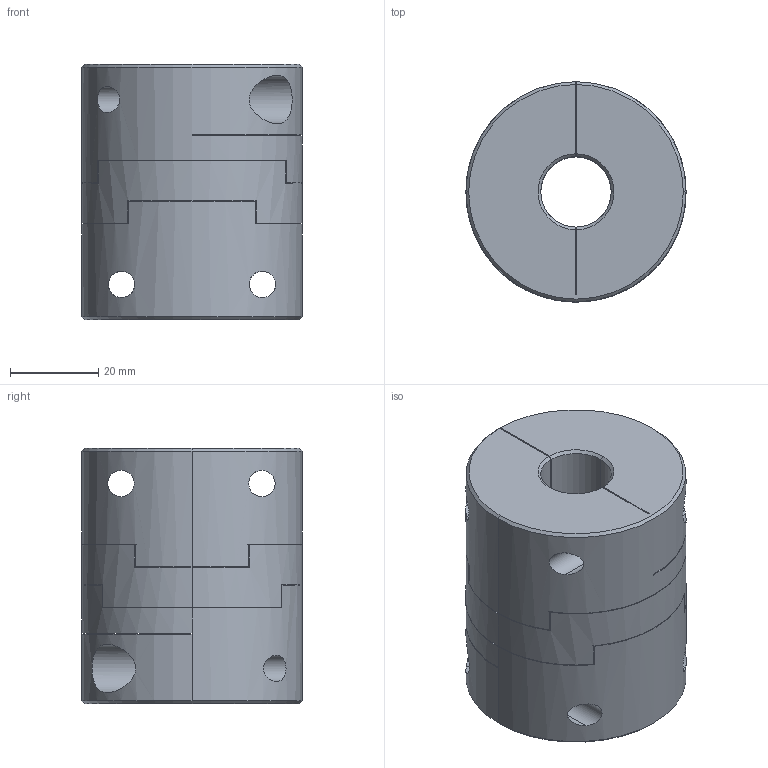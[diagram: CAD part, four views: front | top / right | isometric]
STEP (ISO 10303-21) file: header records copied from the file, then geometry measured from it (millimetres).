
FILE_DESCRIPTION (( 'STEP AP203' ), '1' );
FILE_NAME ('SOL-50C.STEP', '2009-10-01T14:35:36', ( 'USER' ), ( 'HOME' ), 'SwSTEP 2.0', 'SolidWorks 2007', '' );
FILE_SCHEMA (( 'CONFIG_CONTROL_DESIGN' ));
Length unit declared in the file: millimetre
Products named in the file (1): SOL-50C
Bounding box: 50 x 50 x 58 mm (x, y, z)
Volume: 93222.2 mm3; surface area: 32098.3 mm2
Topology: 3 solids, 3 shells, 92 faces, 247 edges, 163 vertices
Faces by surface type: plane 42, cylinder 41, cone 9
Entity records: 3581 total; most frequent: CARTESIAN_POINT 1113, DIRECTION 504, ORIENTED_EDGE 494, EDGE_CURVE 247, AXIS2_PLACEMENT_3D 192, VERTEX_POINT 163, VECTOR 120, LINE 120
